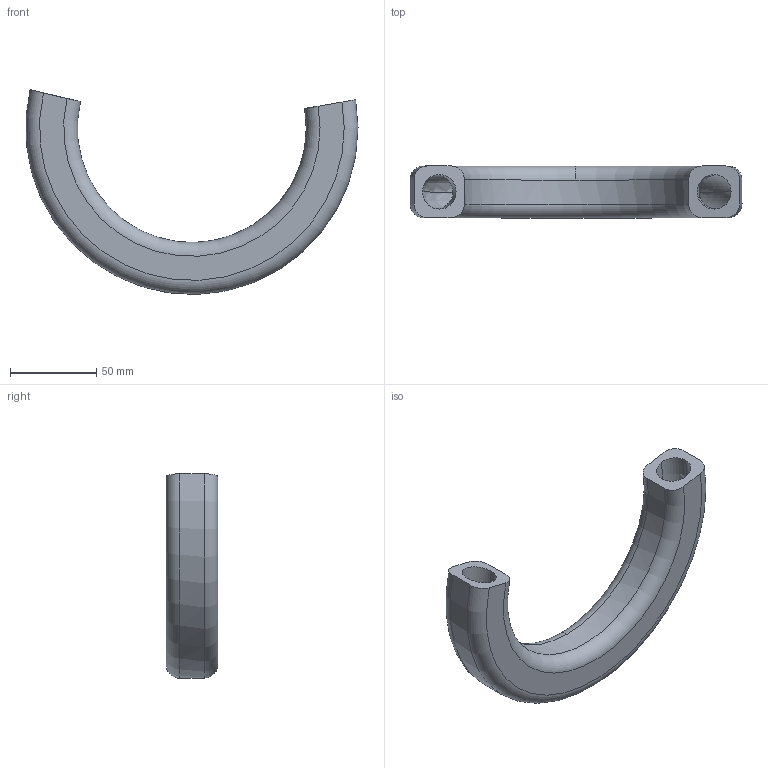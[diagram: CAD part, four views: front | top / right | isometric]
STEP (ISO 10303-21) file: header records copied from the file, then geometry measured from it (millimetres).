
FILE_DESCRIPTION (( 'STEP AP214' ), '1' );
FILE_NAME ('sweep_meshing_example.STEP', '2007-04-28T05:57:31', ( 'Amol' ), ( '' ), 'SwSTEP 2.0', 'SolidWorks 2007', '' );
FILE_SCHEMA (( 'AUTOMOTIVE_DESIGN' ));
Length unit declared in the file: metre
Products named in the file (1): sweep_meshing_example
Bounding box: 192.48 x 30 x 118.59 mm (x, y, z)
Volume: 153055.6 mm3; surface area: 49852.9 mm2
Topology: 1 solids, 1 shells, 16 faces, 42 edges, 28 vertices
Faces by surface type: torus 8, plane 5, cylinder 2, bspline 1
Entity records: 638 total; most frequent: CARTESIAN_POINT 191, DIRECTION 102, ORIENTED_EDGE 84, AXIS2_PLACEMENT_3D 47, EDGE_CURVE 42, CIRCLE 31, VERTEX_POINT 28, EDGE_LOOP 18
